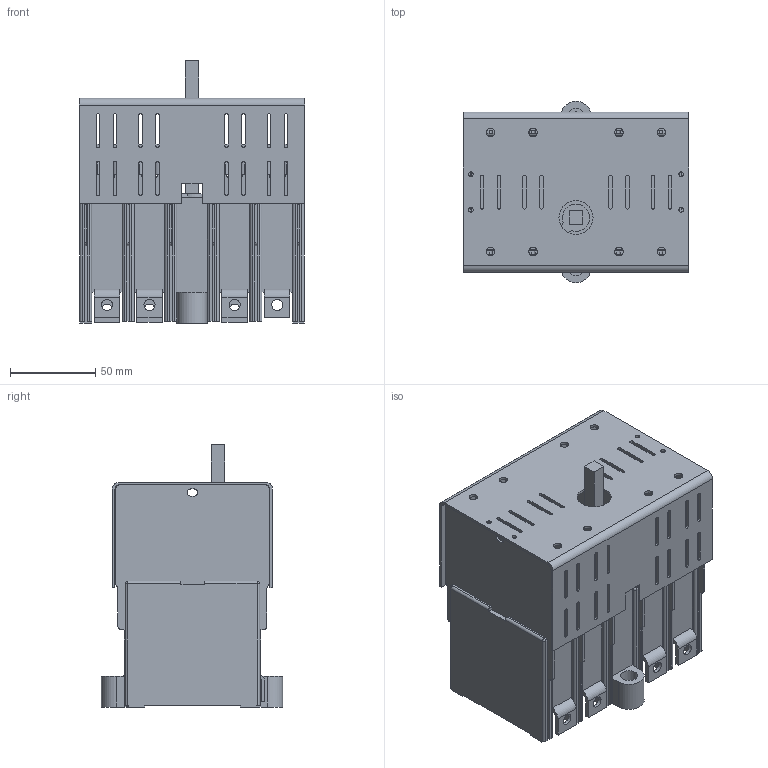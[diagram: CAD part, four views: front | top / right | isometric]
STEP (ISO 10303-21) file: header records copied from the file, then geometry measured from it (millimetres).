
FILE_DESCRIPTION(/* description */ (''),/* implementation_level */ '2;1');
FILE_NAME(/* name */ 'RAB 000 P3 NC, P4 C.stp',/* time_stamp */ '2021-08-19T10:49:15+02:00',/* author */ (''),/* organization */ (''),/* preprocessor_version */ 'ST-DEVELOPER v18.1',/* originating_system */ 'SIEMENS PLM Software NX 1965',/* authorisation */ '');
FILE_SCHEMA (('AUTOMOTIVE_DESIGN { 1 0 10303 214 3 1 1 }','INTEGRATED_CNC_SCHEMA'));
Length unit declared in the file: millimetre
Products named in the file (1): RAB 000 P3 NC, P4 C_stp
Bounding box: 132.5 x 106.51 x 154 mm (x, y, z)
Volume: 734961.8 mm3; surface area: 210676.9 mm2
Topology: 1 solids, 1 shells, 1134 faces, 3214 edges, 2064 vertices
Faces by surface type: plane 739, cylinder 371, sphere 23, bspline 1
Full cylindrical faces by diameter (mm): 2.7 x4, 5 x8, 5.8 x2, 6.5 x8, 10 x2, 20 x1
Entity records: 36550 total; most frequent: CARTESIAN_POINT 6730, ORIENTED_EDGE 6310, DIRECTION 6044, EDGE_CURVE 3155, LINE 2320, VECTOR 2320, VERTEX_POINT 2054, AXIS2_PLACEMENT_3D 1862
